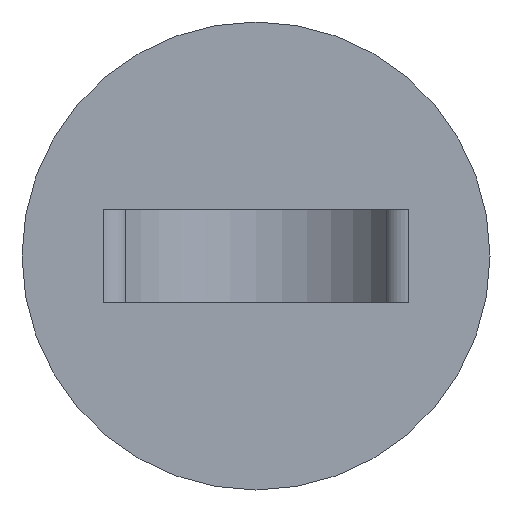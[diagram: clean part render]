
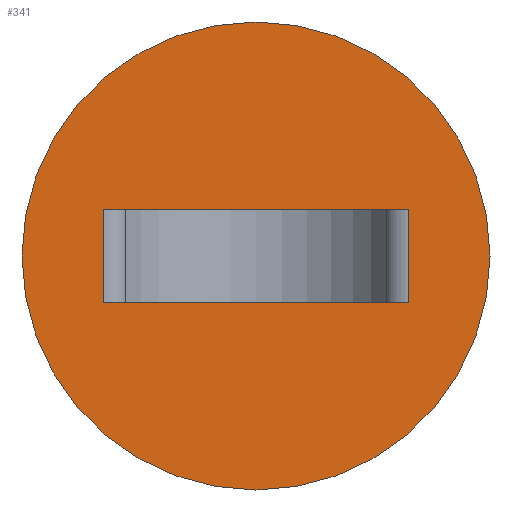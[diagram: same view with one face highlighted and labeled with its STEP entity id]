
A CAD part, front view. The second image highlights one B-rep face of the part: STEP entity #341.
In plain terms, the highlighted planar face has unit normal (0, -1, 0).
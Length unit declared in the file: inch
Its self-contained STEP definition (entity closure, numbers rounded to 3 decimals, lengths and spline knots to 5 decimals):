
#2 = AXIS2_PLACEMENT_3D ( 'NONE', #314, #234, #194 ) ;
#3 = DIRECTION ( 'NONE',  ( 0., 0., -1. ) ) ;
#20 = CARTESIAN_POINT ( 'NONE',  ( 0.40703, -0.036, 0.25 ) ) ;
#21 = VECTOR ( 'NONE', #3, 39.37008 ) ;
#27 = PLANE ( 'NONE',  #454 ) ;
#44 = LINE ( 'NONE', #85, #21 ) ;
#48 = CIRCLE ( 'NONE', #2, 0.625 ) ;
#53 = CARTESIAN_POINT ( 'NONE',  ( -0.625, -0.036, 0.125 ) ) ;
#67 = CARTESIAN_POINT ( 'NONE',  ( 0.625, -0.036, 0.125 ) ) ;
#76 = ORIENTED_EDGE ( 'NONE', *, *, #80, .T. ) ;
#77 = LINE ( 'NONE', #196, #402 ) ;
#80 = EDGE_CURVE ( 'NONE', #361, #238, #441, .T. ) ;
#84 = DIRECTION ( 'NONE',  ( 0., -1., 0. ) ) ;
#85 = CARTESIAN_POINT ( 'NONE',  ( -0.40703, -0.036, 0.25 ) ) ;
#97 = DIRECTION ( 'NONE',  ( -1., 0., 0. ) ) ;
#117 = DIRECTION ( 'NONE',  ( 0., 0., -1. ) ) ;
#135 = AXIS2_PLACEMENT_3D ( 'NONE', #372, #84, #296 ) ;
#151 = CARTESIAN_POINT ( 'NONE',  ( -0.40703, -0.036, 0. ) ) ;
#161 = VERTEX_POINT ( 'NONE', #389 ) ;
#194 = DIRECTION ( 'NONE',  ( 1., 0., 0. ) ) ;
#196 = CARTESIAN_POINT ( 'NONE',  ( -0.40703, -0.036, 0. ) ) ;
#197 = ORIENTED_EDGE ( 'NONE', *, *, #226, .F. ) ;
#199 = VERTEX_POINT ( 'NONE', #477 ) ;
#226 = EDGE_CURVE ( 'NONE', #199, #161, #339, .T. ) ;
#234 = DIRECTION ( 'NONE',  ( 0., -1., 0. ) ) ;
#238 = VERTEX_POINT ( 'NONE', #53 ) ;
#263 = EDGE_CURVE ( 'NONE', #199, #537, #363, .T. ) ;
#282 = EDGE_CURVE ( 'NONE', #374, #537, #77, .T. ) ;
#296 = DIRECTION ( 'NONE',  ( 1., 0., 0. ) ) ;
#314 = CARTESIAN_POINT ( 'NONE',  ( 0., -0.036, 0.125 ) ) ;
#321 = ORIENTED_EDGE ( 'NONE', *, *, #263, .T. ) ;
#339 = LINE ( 'NONE', #515, #449 ) ;
#341 = ADVANCED_FACE ( 'NONE', ( #445, #526 ), #27, .F. ) ;
#361 = VERTEX_POINT ( 'NONE', #67 ) ;
#363 = LINE ( 'NONE', #20, #459 ) ;
#366 = DIRECTION ( 'NONE',  ( -1., 0., 0. ) ) ;
#372 = CARTESIAN_POINT ( 'NONE',  ( 0., -0.036, 0.125 ) ) ;
#374 = VERTEX_POINT ( 'NONE', #151 ) ;
#386 = EDGE_CURVE ( 'NONE', #238, #361, #48, .T. ) ;
#389 = CARTESIAN_POINT ( 'NONE',  ( -0.40703, -0.036, 0.25 ) ) ;
#398 = ORIENTED_EDGE ( 'NONE', *, *, #386, .T. ) ;
#402 = VECTOR ( 'NONE', #495, 39.37008 ) ;
#441 = CIRCLE ( 'NONE', #135, 0.625 ) ;
#444 = EDGE_CURVE ( 'NONE', #161, #374, #44, .T. ) ;
#445 = FACE_OUTER_BOUND ( 'NONE', #489, .T. ) ;
#447 = CARTESIAN_POINT ( 'NONE',  ( 0.40703, -0.036, 0.25 ) ) ;
#449 = VECTOR ( 'NONE', #97, 39.37008 ) ;
#454 = AXIS2_PLACEMENT_3D ( 'NONE', #447, #486, #366 ) ;
#457 = CARTESIAN_POINT ( 'NONE',  ( 0.40703, -0.036, 0. ) ) ;
#459 = VECTOR ( 'NONE', #117, 39.37008 ) ;
#468 = EDGE_LOOP ( 'NONE', ( #542, #197, #321, #532 ) ) ;
#477 = CARTESIAN_POINT ( 'NONE',  ( 0.40703, -0.036, 0.25 ) ) ;
#486 = DIRECTION ( 'NONE',  ( 0., 1., 0. ) ) ;
#489 = EDGE_LOOP ( 'NONE', ( #76, #398 ) ) ;
#495 = DIRECTION ( 'NONE',  ( 1., 0., 0. ) ) ;
#515 = CARTESIAN_POINT ( 'NONE',  ( -0.40703, -0.036, 0.25 ) ) ;
#526 = FACE_BOUND ( 'NONE', #468, .T. ) ;
#532 = ORIENTED_EDGE ( 'NONE', *, *, #282, .F. ) ;
#537 = VERTEX_POINT ( 'NONE', #457 ) ;
#542 = ORIENTED_EDGE ( 'NONE', *, *, #444, .F. ) ;
